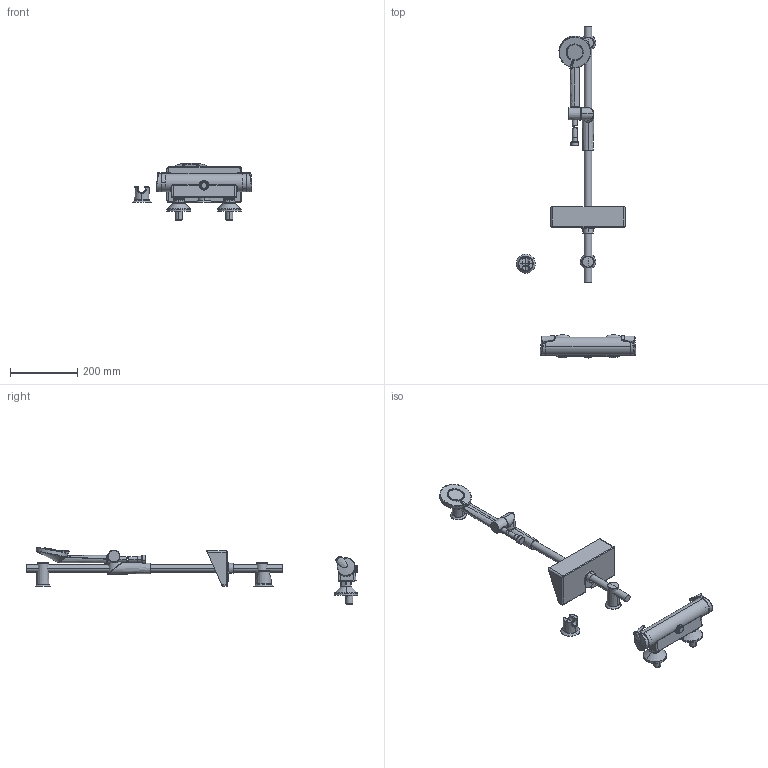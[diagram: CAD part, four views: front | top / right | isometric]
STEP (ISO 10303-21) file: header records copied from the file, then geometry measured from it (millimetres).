
FILE_DESCRIPTION (( 'STEP AP203' ), '1' );
FILE_NAME ('7169U(2013).STEP', '2018-05-02T10:57:39', ( '' ), ( '' ), 'SwSTEP 2.0', 'SolidWorks 2016', '' );
FILE_SCHEMA (( 'CONFIG_CONTROL_DESIGN' ));
Products named in the file (1): 7169U(2013)
Bounding box: 354.68 x 985.38 x 170.63 mm (x, y, z)
Volume: 2097490.8 mm3; surface area: 372829.3 mm2
Topology: 24 solids, 24 shells, 866 faces, 2003 edges, 1204 vertices
Faces by surface type: bspline 245, cylinder 209, plane 181, cone 114, torus 94, sphere 23
Entity records: 48854 total; most frequent: CARTESIAN_POINT 31128, ORIENTED_EDGE 3982, DIRECTION 3288, EDGE_CURVE 1991, AXIS2_PLACEMENT_3D 1392, VERTEX_POINT 1198, EDGE_LOOP 895, FACE_OUTER_BOUND 866
